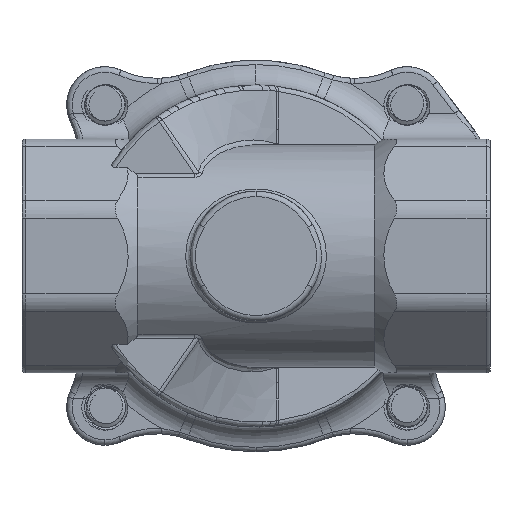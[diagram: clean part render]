
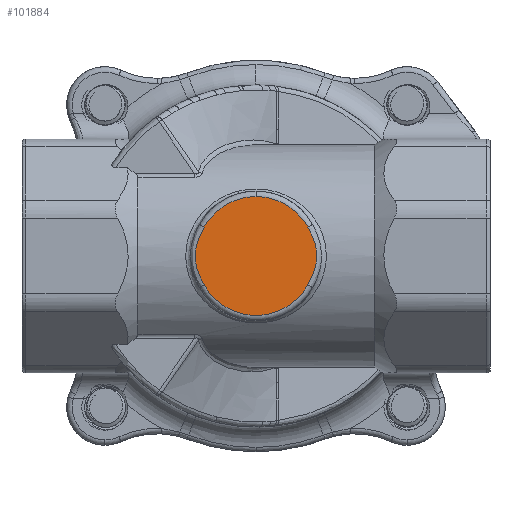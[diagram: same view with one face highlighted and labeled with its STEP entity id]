
A CAD part, front view. The second image highlights one B-rep face of the part: STEP entity #101884.
In plain terms, the highlighted planar face has unit normal (0, -1, 0).
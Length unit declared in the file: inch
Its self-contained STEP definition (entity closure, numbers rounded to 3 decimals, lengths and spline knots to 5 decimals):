
#488 = CARTESIAN_POINT ( 'NONE',  ( 0.54211, -1.0825, -0.12834 ) ) ;
#943 = PLANE ( 'NONE',  #104525 ) ;
#1030 = CARTESIAN_POINT ( 'NONE',  ( 0.52245, -1.0825, 0.18322 ) ) ;
#5255 = EDGE_CURVE ( 'NONE', #93153, #90509, #12333, .T. ) ;
#5587 = CARTESIAN_POINT ( 'NONE',  ( -0.52245, -1.0825, -0.18322 ) ) ;
#7189 = CARTESIAN_POINT ( 'NONE',  ( -0.55946, -1.0825, -0.04682 ) ) ;
#7720 = DIRECTION ( 'NONE',  ( 0., 0., 1. ) ) ;
#7786 = EDGE_CURVE ( 'NONE', #30994, #81931, #33393, .T. ) ;
#7792 = EDGE_CURVE ( 'NONE', #81931, #93967, #15990, .T. ) ;
#8032 = CARTESIAN_POINT ( 'NONE',  ( 0.48027, -1.0825, -0.26804 ) ) ;
#8151 = CARTESIAN_POINT ( 'NONE',  ( 0.50336, -1.0825, -0.22665 ) ) ;
#11634 = CARTESIAN_POINT ( 'NONE',  ( -0.54211, -1.0825, 0.12834 ) ) ;
#12333 = CIRCLE ( 'NONE', #106923, 0.55 ) ;
#14334 = CARTESIAN_POINT ( 'NONE',  ( -0.50276, -1.0825, -0.22617 ) ) ;
#14881 = CARTESIAN_POINT ( 'NONE',  ( -0.54001, -1.0825, -0.13953 ) ) ;
#15990 = CIRCLE ( 'NONE', #80821, 0.55 ) ;
#16835 = DIRECTION ( 'NONE',  ( 0., 0., 1. ) ) ;
#17452 = CARTESIAN_POINT ( 'NONE',  ( 0.52369, -1.0825, -0.18418 ) ) ;
#17914 = CARTESIAN_POINT ( 'NONE',  ( 5.24177, -1.0825, 0.44839 ) ) ;
#22682 = DIRECTION ( 'NONE',  ( 0., 0., 1. ) ) ;
#23517 = ORIENTED_EDGE ( 'NONE', *, *, #7786, .T. ) ;
#28621 = B_SPLINE_CURVE_WITH_KNOTS ( 'NONE', 3,
 ( #74526, #8151, #17452, #488, #107907, #41637, #108442, #50955, #33991, #84321, #83248, #33421, #42735, #76159, #57561, #1030, #83782, #34518, #90902 ),
 .UNSPECIFIED., .F., .F.,
 ( 4, 2, 2, 2, 2, 2, 2, 1, 2, 4 ),
 ( 0., 0.00358, 0.00447, 0.00537, 0.00716, 0.00805, 0.00895, 0.01074, 0.01253, 0.01431 ),
 .UNSPECIFIED. ) ;
#29201 = CARTESIAN_POINT ( 'NONE',  ( -0.48027, -1.0825, 0.26804 ) ) ;
#30298 = DIRECTION ( 'NONE',  ( 0., 0., 1. ) ) ;
#30994 = VERTEX_POINT ( 'NONE', #54558 ) ;
#33393 = B_SPLINE_CURVE_WITH_KNOTS ( 'NONE', 3,
 ( #29201, #62117, #95468, #11634, #62657, #96005, #43088, #60082, #53369, #86748, #36910, #7189, #89415, #65870, #14881, #5587, #14334, #105340, #56604 ),
 .UNSPECIFIED., .F., .F.,
 ( 4, 2, 2, 2, 2, 2, 2, 1, 2, 4 ),
 ( 0., 0.00358, 0.00447, 0.00537, 0.00716, 0.00805, 0.00895, 0.01074, 0.01253, 0.01431 ),
 .UNSPECIFIED. ) ;
#33421 = CARTESIAN_POINT ( 'NONE',  ( 0.55946, -1.0825, 0.04682 ) ) ;
#33991 = CARTESIAN_POINT ( 'NONE',  ( 0.56199, -1.0825, -0.02379 ) ) ;
#34518 = CARTESIAN_POINT ( 'NONE',  ( 0.49184, -1.0825, 0.24731 ) ) ;
#36910 = CARTESIAN_POINT ( 'NONE',  ( -0.5615, -1.0825, -0.02326 ) ) ;
#38794 = ORIENTED_EDGE ( 'NONE', *, *, #62900, .T. ) ;
#41637 = CARTESIAN_POINT ( 'NONE',  ( 0.55128, -1.0825, -0.0941 ) ) ;
#42093 = DIRECTION ( 'NONE',  ( 0., 1., 0. ) ) ;
#42735 = CARTESIAN_POINT ( 'NONE',  ( 0.55791, -1.0825, 0.05865 ) ) ;
#43088 = CARTESIAN_POINT ( 'NONE',  ( -0.5538, -1.0825, 0.08242 ) ) ;
#45910 = AXIS2_PLACEMENT_3D ( 'NONE', #82808, #90993, #7720 ) ;
#50955 = CARTESIAN_POINT ( 'NONE',  ( 0.5599, -1.0825, -0.04726 ) ) ;
#53369 = CARTESIAN_POINT ( 'NONE',  ( -0.56199, -1.0825, 0.02379 ) ) ;
#54253 = EDGE_CURVE ( 'NONE', #90509, #30994, #101854, .T. ) ;
#54558 = CARTESIAN_POINT ( 'NONE',  ( -0.48027, -1.0825, 0.26804 ) ) ;
#56556 = CARTESIAN_POINT ( 'NONE',  ( 0., -1.0825, 0.55 ) ) ;
#56604 = CARTESIAN_POINT ( 'NONE',  ( -0.48027, -1.0825, -0.26804 ) ) ;
#57561 = CARTESIAN_POINT ( 'NONE',  ( 0.54001, -1.0825, 0.13953 ) ) ;
#60082 = CARTESIAN_POINT ( 'NONE',  ( -0.5599, -1.0825, 0.04726 ) ) ;
#62117 = CARTESIAN_POINT ( 'NONE',  ( -0.50336, -1.0825, 0.22665 ) ) ;
#62657 = CARTESIAN_POINT ( 'NONE',  ( -0.54544, -1.0825, 0.11704 ) ) ;
#62900 = EDGE_CURVE ( 'NONE', #93967, #93153, #28621, .T. ) ;
#65870 = CARTESIAN_POINT ( 'NONE',  ( -0.55184, -1.0825, -0.09386 ) ) ;
#70379 = ORIENTED_EDGE ( 'NONE', *, *, #5255, .T. ) ;
#71950 = CARTESIAN_POINT ( 'NONE',  ( 0., -1.0825, 0. ) ) ;
#74526 = CARTESIAN_POINT ( 'NONE',  ( 0.48027, -1.0825, -0.26804 ) ) ;
#76071 = FACE_OUTER_BOUND ( 'NONE', #102671, .T. ) ;
#76159 = CARTESIAN_POINT ( 'NONE',  ( 0.55184, -1.0825, 0.09386 ) ) ;
#80821 = AXIS2_PLACEMENT_3D ( 'NONE', #71950, #81228, #30298 ) ;
#81133 = CARTESIAN_POINT ( 'NONE',  ( 0.48027, -1.0825, 0.26804 ) ) ;
#81228 = DIRECTION ( 'NONE',  ( 0., -1., 0. ) ) ;
#81931 = VERTEX_POINT ( 'NONE', #86785 ) ;
#82363 = CARTESIAN_POINT ( 'NONE',  ( 0., -1.0825, 0. ) ) ;
#82808 = CARTESIAN_POINT ( 'NONE',  ( 0., -1.0825, 0. ) ) ;
#83248 = CARTESIAN_POINT ( 'NONE',  ( 0.5615, -1.0825, 0.02326 ) ) ;
#83782 = CARTESIAN_POINT ( 'NONE',  ( 0.50276, -1.0825, 0.22617 ) ) ;
#84321 = CARTESIAN_POINT ( 'NONE',  ( 0.56201, -1.0825, 0.01149 ) ) ;
#86748 = CARTESIAN_POINT ( 'NONE',  ( -0.56201, -1.0825, -0.01149 ) ) ;
#86785 = CARTESIAN_POINT ( 'NONE',  ( -0.48027, -1.0825, -0.26804 ) ) ;
#89415 = CARTESIAN_POINT ( 'NONE',  ( -0.55791, -1.0825, -0.05865 ) ) ;
#90509 = VERTEX_POINT ( 'NONE', #56556 ) ;
#90902 = CARTESIAN_POINT ( 'NONE',  ( 0.48027, -1.0825, 0.26804 ) ) ;
#90993 = DIRECTION ( 'NONE',  ( 0., -1., 0. ) ) ;
#91659 = DIRECTION ( 'NONE',  ( 0., -1., 0. ) ) ;
#93153 = VERTEX_POINT ( 'NONE', #81133 ) ;
#93967 = VERTEX_POINT ( 'NONE', #8032 ) ;
#95468 = CARTESIAN_POINT ( 'NONE',  ( -0.52369, -1.0825, 0.18418 ) ) ;
#96005 = CARTESIAN_POINT ( 'NONE',  ( -0.55128, -1.0825, 0.0941 ) ) ;
#98156 = ORIENTED_EDGE ( 'NONE', *, *, #7792, .T. ) ;
#101854 = CIRCLE ( 'NONE', #45910, 0.55 ) ;
#101884 = ADVANCED_FACE ( 'Defeatured_0_322', ( #76071 ), #943, .F. ) ;
#102671 = EDGE_LOOP ( 'NONE', ( #70379, #105248, #23517, #98156, #38794 ) ) ;
#104525 = AXIS2_PLACEMENT_3D ( 'NONE', #17914, #42093, #16835 ) ;
#105248 = ORIENTED_EDGE ( 'NONE', *, *, #54253, .T. ) ;
#105340 = CARTESIAN_POINT ( 'NONE',  ( -0.49184, -1.0825, -0.24731 ) ) ;
#106923 = AXIS2_PLACEMENT_3D ( 'NONE', #82363, #91659, #22682 ) ;
#107907 = CARTESIAN_POINT ( 'NONE',  ( 0.54544, -1.0825, -0.11704 ) ) ;
#108442 = CARTESIAN_POINT ( 'NONE',  ( 0.5538, -1.0825, -0.08242 ) ) ;
